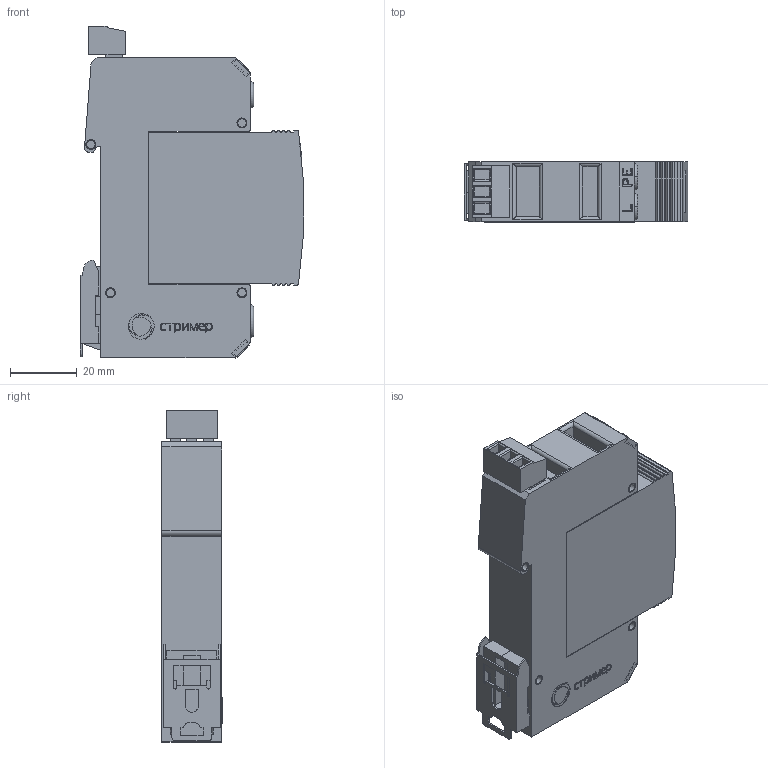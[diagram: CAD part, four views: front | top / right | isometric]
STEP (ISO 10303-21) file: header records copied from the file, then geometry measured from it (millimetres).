
FILE_DESCRIPTION(('TFLEX Exchange Step'),'2;1');
FILE_NAME('X2\041004400442\X0\.122.106.stp', '2022-08-01T13:44:10+03:00',('Pavel Oborin'),('Unknown organisation'),'TFLEX Exchange 2019.2','T-FLEX CAD','Unknown authorisation');
FILE_SCHEMA( ('AUTOMOTIVE_DESIGN { 1 0 10303 214 1 1 1 1 }') );
Length unit declared in the file: millimetre
Products named in the file (9): 0; Сигнализация:4; Сигнализация; буква N; Буква L PE; Планка; ВНЕШНИЙ МОДУЛЬ 18 без ушек; Корпус 18 3 контакта; Арт.122.106
Assembly tree (10 placements, depth 3):
  Арт.122.106
    0
    Сигнализация
      Сигнализация:4  x3
    буква N
    Буква L PE
    Планка
    ВНЕШНИЙ МОДУЛЬ 18 без ушек
    Корпус 18 3 контакта
Bounding box: 66.98 x 18.1 x 99.68 mm (x, y, z)
Volume: 87770.9 mm3; surface area: 25670.1 mm2
Topology: 35 solids, 35 shells, 580 faces, 1416 edges, 928 vertices
Faces by surface type: plane 384, cylinder 133, bspline 51, torus 9, cone 3
Full cylindrical faces by diameter (mm): 1.6 x3, 3 x3
Entity records: 19863 total; most frequent: CARTESIAN_POINT 6450, ORIENTED_EDGE 2736, DIRECTION 2583, EDGE_CURVE 1368, VECTOR 1017, LINE 1017, VERTEX_POINT 896, AXIS2_PLACEMENT_3D 783
